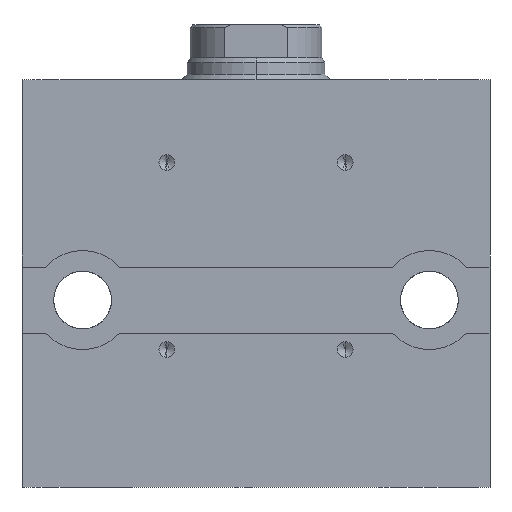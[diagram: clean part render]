
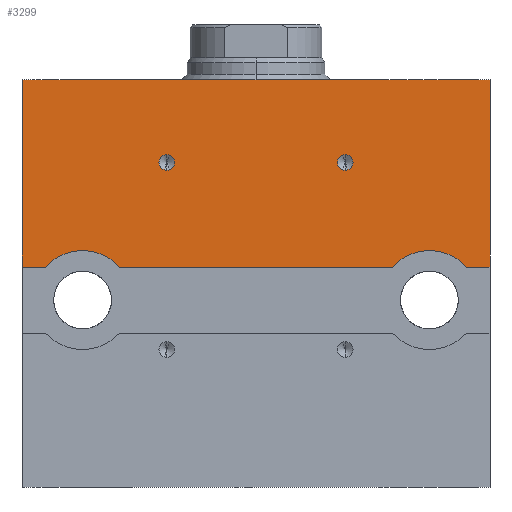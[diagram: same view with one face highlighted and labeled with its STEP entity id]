
A CAD part, left-side view. The second image highlights one B-rep face of the part: STEP entity #3299.
In plain terms, the highlighted planar face has unit normal (-1, 0, 0).
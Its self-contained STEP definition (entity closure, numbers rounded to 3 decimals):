
#30 = DIRECTION ( 'NONE',  ( -1., 0., 0. ) ) ;
#102 = CARTESIAN_POINT ( 'NONE',  ( -31.5, -42.5, -84. ) ) ;
#153 = DIRECTION ( 'NONE',  ( -1., 0., 0. ) ) ;
#208 = CARTESIAN_POINT ( 'NONE',  ( -31.5, -31.5, -50. ) ) ;
#236 = EDGE_CURVE ( 'NONE', #3184, #1329, #6705, .T. ) ;
#243 = EDGE_CURVE ( 'NONE', #4144, #364, #359, .T. ) ;
#259 = FACE_OUTER_BOUND ( 'NONE', #2425, .T. ) ;
#321 = ORIENTED_EDGE ( 'NONE', *, *, #2627, .F. ) ;
#339 = VERTEX_POINT ( 'NONE', #3860 ) ;
#359 = LINE ( 'NONE', #914, #4089 ) ;
#364 = VERTEX_POINT ( 'NONE', #1028 ) ;
#367 = CIRCLE ( 'NONE', #3585, 9. ) ;
#498 = AXIS2_PLACEMENT_3D ( 'NONE', #527, #5724, #2088 ) ;
#527 = CARTESIAN_POINT ( 'NONE',  ( -31.5, 31.5, -50. ) ) ;
#550 = CIRCLE ( 'NONE', #1995, 9. ) ;
#586 = DIRECTION ( 'NONE',  ( -1., 0., 0. ) ) ;
#659 = VECTOR ( 'NONE', #3047, 1000. ) ;
#697 = CARTESIAN_POINT ( 'NONE',  ( -31.5, -31.5, -41. ) ) ;
#880 = EDGE_CURVE ( 'NONE', #4771, #885, #4978, .T. ) ;
#885 = VERTEX_POINT ( 'NONE', #3207 ) ;
#890 = VECTOR ( 'NONE', #3401, 1000. ) ;
#914 = CARTESIAN_POINT ( 'NONE',  ( -31.5, -42.5, -44. ) ) ;
#984 = DIRECTION ( 'NONE',  ( 0., 0., 1. ) ) ;
#988 = DIRECTION ( 'NONE',  ( 0., 0., 1. ) ) ;
#1015 = CARTESIAN_POINT ( 'NONE',  ( -31.5, 16.2, -25. ) ) ;
#1028 = CARTESIAN_POINT ( 'NONE',  ( -31.5, 24.792, -44. ) ) ;
#1069 = CARTESIAN_POINT ( 'NONE',  ( -31.5, -38.208, -44. ) ) ;
#1206 = CIRCLE ( 'NONE', #1765, 1.425 ) ;
#1329 = VERTEX_POINT ( 'NONE', #1069 ) ;
#1330 = ORIENTED_EDGE ( 'NONE', *, *, #4207, .T. ) ;
#1340 = LINE ( 'NONE', #2958, #2158 ) ;
#1366 = ORIENTED_EDGE ( 'NONE', *, *, #236, .F. ) ;
#1501 = VERTEX_POINT ( 'NONE', #4391 ) ;
#1690 = CARTESIAN_POINT ( 'NONE',  ( -31.5, -31.5, -50. ) ) ;
#1713 = DIRECTION ( 'NONE',  ( 0., 0., 1. ) ) ;
#1765 = AXIS2_PLACEMENT_3D ( 'NONE', #6275, #3615, #2716 ) ;
#1776 = AXIS2_PLACEMENT_3D ( 'NONE', #4154, #586, #4797 ) ;
#1995 = AXIS2_PLACEMENT_3D ( 'NONE', #208, #5902, #2236 ) ;
#2010 = CARTESIAN_POINT ( 'NONE',  ( -31.5, -42.5, -44. ) ) ;
#2018 = ORIENTED_EDGE ( 'NONE', *, *, #6226, .T. ) ;
#2088 = DIRECTION ( 'NONE',  ( 0., 0., -1. ) ) ;
#2158 = VECTOR ( 'NONE', #5049, 1000. ) ;
#2236 = DIRECTION ( 'NONE',  ( 0., 0., -1. ) ) ;
#2238 = EDGE_CURVE ( 'NONE', #3281, #364, #367, .T. ) ;
#2265 = DIRECTION ( 'NONE',  ( 1., 0., 0. ) ) ;
#2287 = ORIENTED_EDGE ( 'NONE', *, *, #2873, .T. ) ;
#2323 = FACE_BOUND ( 'NONE', #6501, .T. ) ;
#2372 = CARTESIAN_POINT ( 'NONE',  ( -31.5, 16.2, -23.575 ) ) ;
#2416 = CARTESIAN_POINT ( 'NONE',  ( -31.5, 42.5, -44. ) ) ;
#2425 = EDGE_LOOP ( 'NONE', ( #2682, #5593, #1330, #1366, #2287, #3334, #5067, #3648, #2018, #4353 ) ) ;
#2467 = LINE ( 'NONE', #2010, #659 ) ;
#2542 = AXIS2_PLACEMENT_3D ( 'NONE', #1015, #30, #984 ) ;
#2627 = EDGE_CURVE ( 'NONE', #5270, #4680, #2756, .T. ) ;
#2657 = DIRECTION ( 'NONE',  ( 1., 0., 0. ) ) ;
#2682 = ORIENTED_EDGE ( 'NONE', *, *, #243, .F. ) ;
#2716 = DIRECTION ( 'NONE',  ( 0., 0., 1. ) ) ;
#2756 = CIRCLE ( 'NONE', #2542, 1.425 ) ;
#2869 = CIRCLE ( 'NONE', #3417, 9. ) ;
#2873 = EDGE_CURVE ( 'NONE', #3184, #5961, #4916, .T. ) ;
#2881 = FACE_BOUND ( 'NONE', #5002, .T. ) ;
#2923 = EDGE_CURVE ( 'NONE', #4144, #5238, #2869, .T. ) ;
#2958 = CARTESIAN_POINT ( 'NONE',  ( -31.5, 42.5, -84. ) ) ;
#3047 = DIRECTION ( 'NONE',  ( 0., 1., 0. ) ) ;
#3158 = CARTESIAN_POINT ( 'NONE',  ( -31.5, -42.5, -44. ) ) ;
#3184 = VERTEX_POINT ( 'NONE', #3158 ) ;
#3207 = CARTESIAN_POINT ( 'NONE',  ( -31.5, -16.2, -26.425 ) ) ;
#3281 = VERTEX_POINT ( 'NONE', #5003 ) ;
#3299 = ADVANCED_FACE ( 'NONE', ( #2323, #2881, #259 ), #6500, .T. ) ;
#3301 = CARTESIAN_POINT ( 'NONE',  ( -31.5, -24.792, -44. ) ) ;
#3334 = ORIENTED_EDGE ( 'NONE', *, *, #4711, .F. ) ;
#3401 = DIRECTION ( 'NONE',  ( 0., -1., 0. ) ) ;
#3417 = AXIS2_PLACEMENT_3D ( 'NONE', #1690, #2265, #6517 ) ;
#3457 = EDGE_CURVE ( 'NONE', #339, #6165, #2467, .T. ) ;
#3585 = AXIS2_PLACEMENT_3D ( 'NONE', #4134, #2657, #6282 ) ;
#3615 = DIRECTION ( 'NONE',  ( -1., 0., 0. ) ) ;
#3619 = DIRECTION ( 'NONE',  ( -1., 0., 0. ) ) ;
#3648 = ORIENTED_EDGE ( 'NONE', *, *, #3457, .F. ) ;
#3688 = CARTESIAN_POINT ( 'NONE',  ( -31.5, -16.2, -25. ) ) ;
#3766 = AXIS2_PLACEMENT_3D ( 'NONE', #3688, #3619, #988 ) ;
#3860 = CARTESIAN_POINT ( 'NONE',  ( -31.5, 38.208, -44. ) ) ;
#3877 = VECTOR ( 'NONE', #6163, 1000. ) ;
#3938 = DIRECTION ( 'NONE',  ( 0., 1., 0. ) ) ;
#3990 = LINE ( 'NONE', #6116, #890 ) ;
#4010 = EDGE_CURVE ( 'NONE', #885, #4771, #1206, .T. ) ;
#4028 = ORIENTED_EDGE ( 'NONE', *, *, #5163, .F. ) ;
#4039 = CARTESIAN_POINT ( 'NONE',  ( -31.5, -42.5, -44. ) ) ;
#4089 = VECTOR ( 'NONE', #3938, 1000. ) ;
#4134 = CARTESIAN_POINT ( 'NONE',  ( -31.5, 31.5, -50. ) ) ;
#4144 = VERTEX_POINT ( 'NONE', #3301 ) ;
#4154 = CARTESIAN_POINT ( 'NONE',  ( -31.5, 16.2, -25. ) ) ;
#4207 = EDGE_CURVE ( 'NONE', #5238, #1329, #550, .T. ) ;
#4283 = AXIS2_PLACEMENT_3D ( 'NONE', #4899, #153, #1713 ) ;
#4305 = CIRCLE ( 'NONE', #1776, 1.425 ) ;
#4353 = ORIENTED_EDGE ( 'NONE', *, *, #2238, .T. ) ;
#4391 = CARTESIAN_POINT ( 'NONE',  ( -31.5, 42.5, -10. ) ) ;
#4680 = VERTEX_POINT ( 'NONE', #2372 ) ;
#4711 = EDGE_CURVE ( 'NONE', #1501, #5961, #3990, .T. ) ;
#4771 = VERTEX_POINT ( 'NONE', #5539 ) ;
#4797 = DIRECTION ( 'NONE',  ( 0., 0., 1. ) ) ;
#4833 = VECTOR ( 'NONE', #5364, 1000. ) ;
#4899 = CARTESIAN_POINT ( 'NONE',  ( -31.5, 42.5, -84. ) ) ;
#4916 = LINE ( 'NONE', #102, #4833 ) ;
#4978 = CIRCLE ( 'NONE', #3766, 1.425 ) ;
#5002 = EDGE_LOOP ( 'NONE', ( #6690, #5910 ) ) ;
#5003 = CARTESIAN_POINT ( 'NONE',  ( -31.5, 31.5, -41. ) ) ;
#5049 = DIRECTION ( 'NONE',  ( 0., 0., 1. ) ) ;
#5067 = ORIENTED_EDGE ( 'NONE', *, *, #6528, .F. ) ;
#5163 = EDGE_CURVE ( 'NONE', #4680, #5270, #4305, .T. ) ;
#5238 = VERTEX_POINT ( 'NONE', #697 ) ;
#5270 = VERTEX_POINT ( 'NONE', #6469 ) ;
#5364 = DIRECTION ( 'NONE',  ( 0., 0., 1. ) ) ;
#5539 = CARTESIAN_POINT ( 'NONE',  ( -31.5, -16.2, -23.575 ) ) ;
#5593 = ORIENTED_EDGE ( 'NONE', *, *, #2923, .T. ) ;
#5724 = DIRECTION ( 'NONE',  ( 1., 0., 0. ) ) ;
#5902 = DIRECTION ( 'NONE',  ( 1., 0., 0. ) ) ;
#5910 = ORIENTED_EDGE ( 'NONE', *, *, #4010, .F. ) ;
#5961 = VERTEX_POINT ( 'NONE', #6485 ) ;
#6116 = CARTESIAN_POINT ( 'NONE',  ( -31.5, 42.5, -10. ) ) ;
#6163 = DIRECTION ( 'NONE',  ( 0., 1., 0. ) ) ;
#6165 = VERTEX_POINT ( 'NONE', #2416 ) ;
#6226 = EDGE_CURVE ( 'NONE', #339, #3281, #6833, .T. ) ;
#6275 = CARTESIAN_POINT ( 'NONE',  ( -31.5, -16.2, -25. ) ) ;
#6282 = DIRECTION ( 'NONE',  ( 0., 0., -1. ) ) ;
#6469 = CARTESIAN_POINT ( 'NONE',  ( -31.5, 16.2, -26.425 ) ) ;
#6485 = CARTESIAN_POINT ( 'NONE',  ( -31.5, -42.5, -10. ) ) ;
#6500 = PLANE ( 'NONE',  #4283 ) ;
#6501 = EDGE_LOOP ( 'NONE', ( #4028, #321 ) ) ;
#6517 = DIRECTION ( 'NONE',  ( 0., 0., -1. ) ) ;
#6528 = EDGE_CURVE ( 'NONE', #6165, #1501, #1340, .T. ) ;
#6690 = ORIENTED_EDGE ( 'NONE', *, *, #880, .F. ) ;
#6705 = LINE ( 'NONE', #4039, #3877 ) ;
#6833 = CIRCLE ( 'NONE', #498, 9. ) ;
